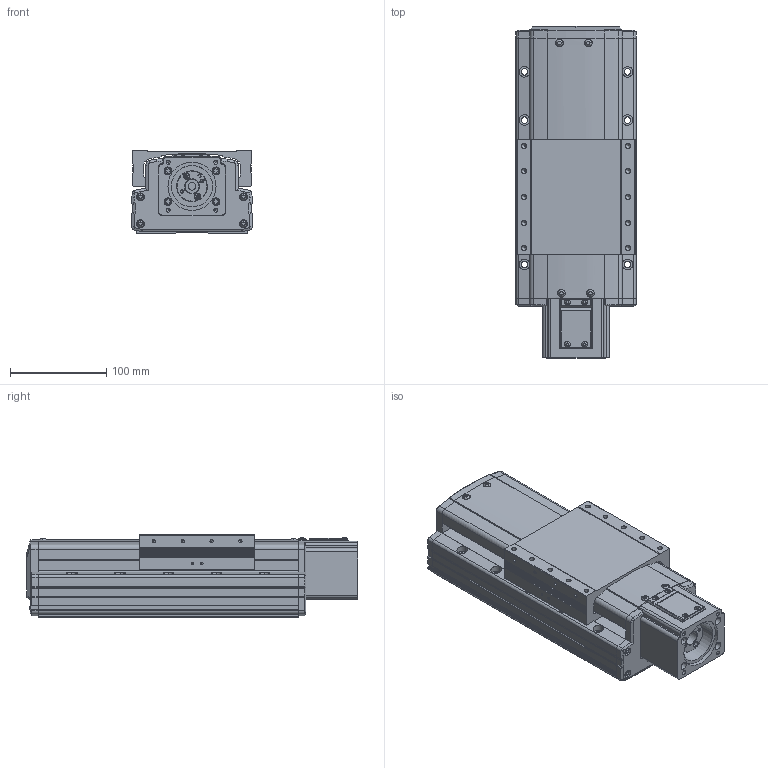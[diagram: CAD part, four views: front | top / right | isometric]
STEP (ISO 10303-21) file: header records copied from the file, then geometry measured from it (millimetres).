
FILE_DESCRIPTION(('STEP AP214'),'1');
FILE_NAME('Z:/Web/3D/PSA125/STP/PSA125-050 (3D)/PSA125ㅁㅁ-050S.stp','2014-06-18T08:10:56',(' '),(' '),'Spatial InterOp 3D',' ',' ');
FILE_SCHEMA(('automotive_design'));
Length unit declared in the file: millimetre
Products named in the file (35): 스크루 : Round - M4.0 x 10.0; RRCV-PA120; SLIDE; BASE; FRCV-PA120-1(기준 뿔 제거); RR1500; 스크루 : Round - M4.0 x 6.0; 너트 : Square - M10.0 x 220.7419; SSFX-SAN65; CPLCV-SAN65; 스크루 : Round - M3.0 x 6.0; MTHZ-PA120-S60A-3; 스크루 : Socket - M4.0 x 20.0; FRCV; NONE
Bounding box: 125 x 344.6 x 86 mm (x, y, z)
Volume: 2749660.1 mm3; surface area: 332287.8 mm2
Topology: 35 solids, 69 shells, 3064 faces, 7832 edges, 4932 vertices
Faces by surface type: plane 1457, cylinder 949, cone 393, torus 174, sphere 50, bspline 41
Entity records: 121002 total; most frequent: CARTESIAN_POINT 20294, DIRECTION 16442, ORIENTED_EDGE 15400, EDGE_CURVE 7700, AXIS2_PLACEMENT_3D 5912, VERTEX_POINT 4932, LINE 4618, VECTOR 4618
